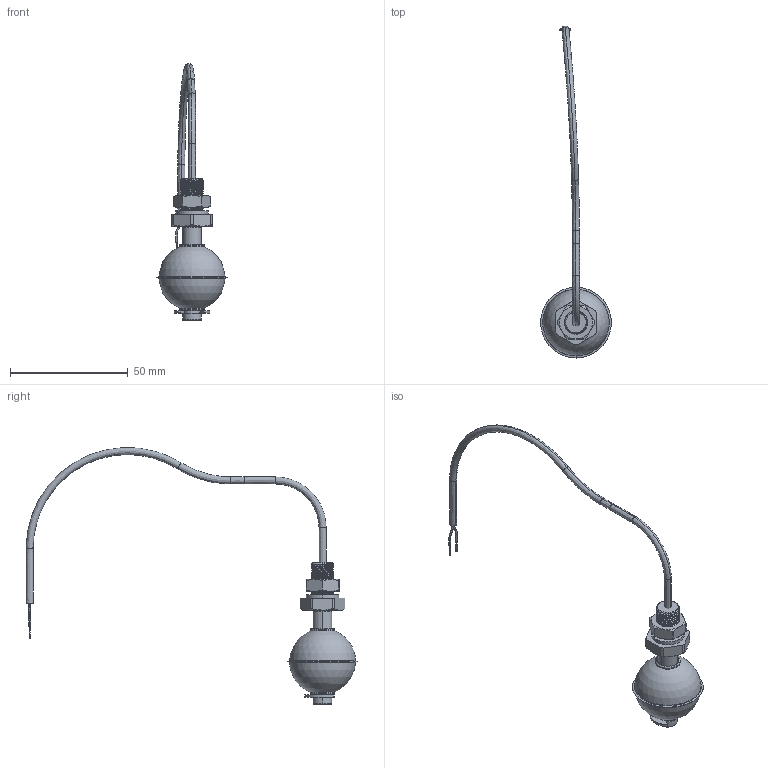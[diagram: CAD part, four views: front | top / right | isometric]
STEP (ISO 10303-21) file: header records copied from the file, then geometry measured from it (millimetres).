
FILE_DESCRIPTION (( 'STEP AP203' ), '1' );
FILE_NAME ('9980_01_SMS.STEP', '2025-12-29T19:54:07', ( '' ), ( '' ), 'SwSTEP 2.0', 'SolidWorks 2022', '' );
FILE_SCHEMA (( 'CONFIG_CONTROL_DESIGN' ));
Length unit declared in the file: millimetre
Products named in the file (8): 9980_01_02_SCHWIMMER_AF1_1_1; ALU-DICHTUNG_R1-8_AF1_1_1; _980_01_SCHWIMMERSCHALTER_AF1_1_1; 000_04E12_SMS-KABEL_AF1_1_1; 9980_01_01_SCHWIMMERSCHALTE_AF1_1_1; 9980_01_03_KLAMMER_AF1_1_1; 90_12_01_MUTTER_G1-8_4_AF1_1_1; 9980_01_SMS
Assembly tree (7 placements, depth 3):
  9980_01_SMS
    _980_01_SCHWIMMERSCHALTER_AF1_1_1
      9980_01_01_SCHWIMMERSCHALTE_AF1_1_1
      9980_01_02_SCHWIMMER_AF1_1_1
      9980_01_03_KLAMMER_AF1_1_1
      90_12_01_MUTTER_G1-8_4_AF1_1_1
      ALU-DICHTUNG_R1-8_AF1_1_1
    000_04E12_SMS-KABEL_AF1_1_1
Bounding box: 30 x 140.75 x 108.95 mm (x, y, z)
Volume: 11980.2 mm3; surface area: 8709.2 mm2
Topology: 5 solids, 7 shells, 189 faces, 444 edges, 275 vertices
Faces by surface type: cylinder 58, bspline 49, plane 39, cone 29, torus 12, sphere 2
Entity records: 15232 total; most frequent: CARTESIAN_POINT 10353, ORIENTED_EDGE 870, DIRECTION 771, EDGE_CURVE 442, AXIS2_PLACEMENT_3D 319, VERTEX_POINT 275, EDGE_LOOP 205, FACE_OUTER_BOUND 189
